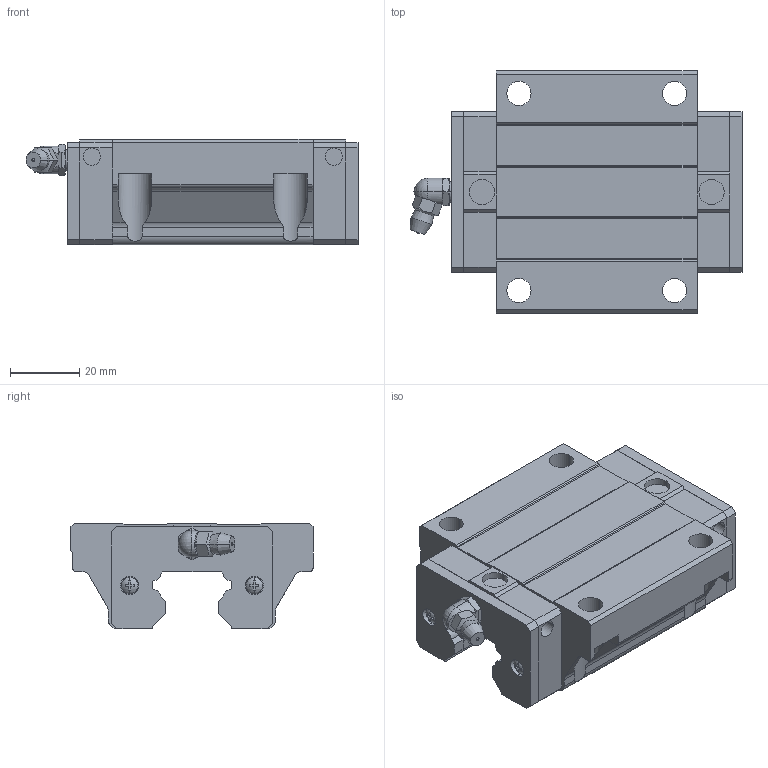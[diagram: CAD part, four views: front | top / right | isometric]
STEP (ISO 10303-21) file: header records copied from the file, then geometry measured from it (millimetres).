
FILE_DESCRIPTION(('starvars output'),'2;1');
FILE_NAME('cv20190626222213000041156.stp','22:22:13 2019/06/26',( 'Thomas Industrial Network Germany GmbH'),( 'Thomas Industrial Network Germany GmbH'),'unknown preprocess','ACIS' ,'unknown authorization');
FILE_SCHEMA(('CONFIG_CONTROL_DESIGN {UNKNOWN IMPLEMENTATION LEVEL}'));
Length unit declared in the file: millimetre
Products named in the file (10): PRODUCT_ID_1; PRODUCT_ID_2; PRODUCT_ID_3; PRODUCT_ID_4; PRODUCT_ID_5; PRODUCT_ID_6; PRODUCT_ID_7; PRODUCT_ID_8; PRODUCT_ID_9; PRODUCT_ID_10
Bounding box: 96 x 70 x 30.5 mm (x, y, z)
Volume: 111134.7 mm3; surface area: 32105 mm2
Topology: 10 solids, 10 shells, 408 faces, 1093 edges, 710 vertices
Faces by surface type: plane 272, cylinder 84, cone 40, sphere 12
Entity records: 12406 total; most frequent: ORIENTED_EDGE 2178, CARTESIAN_POINT 2169, DIRECTION 1682, EDGE_CURVE 1089, VERTEX_POINT 710, VECTOR 696, LINE 696, AXIS2_PLACEMENT_3D 493
